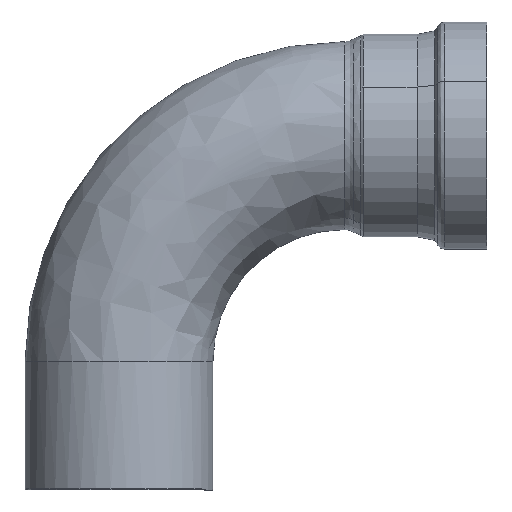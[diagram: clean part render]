
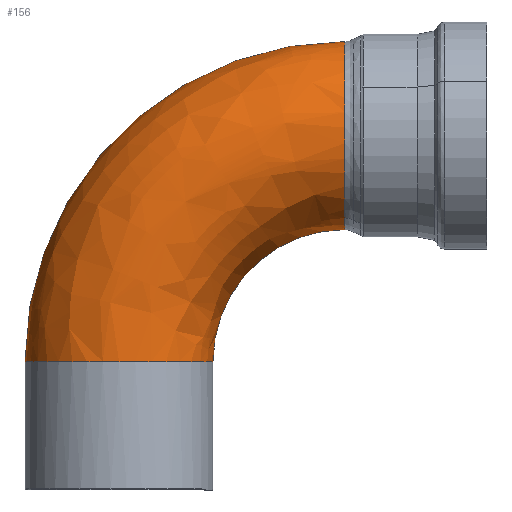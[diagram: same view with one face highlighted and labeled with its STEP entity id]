
A CAD part, front view. The second image highlights one B-rep face of the part: STEP entity #156.
In plain terms, the highlighted free-form (B-spline) face has degree [2, 2] with [5, 3] control points.
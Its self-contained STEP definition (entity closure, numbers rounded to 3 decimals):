
#156=ADVANCED_FACE('',(#418),#419,.T.);
#250=VERTEX_POINT('',#534);
#252=VERTEX_POINT('',#536);
#254=EDGE_CURVE('',#250,#252,#538,.T.);
#256=VERTEX_POINT('',#540);
#258=EDGE_CURVE('',#256,#250,#542,.T.);
#260=VERTEX_POINT('',#544);
#262=EDGE_CURVE('',#256,#260,#546,.T.);
#264=VERTEX_POINT('',#548);
#266=EDGE_CURVE('',#260,#264,#550,.T.);
#268=EDGE_CURVE('',#264,#252,#552,.T.);
#418=FACE_OUTER_BOUND('',#800,.T.);
#419=(B_SPLINE_SURFACE(2,2,((#802,#803,#804),(#805,#806,#807),(#808,#809,#810),(#811,#812,#813),(#814,#815,#816)),.UNSPECIFIED.,.F.,.F.,.F.)B_SPLINE_SURFACE_WITH_KNOTS((3,2,3),(3,3),(0.0,0.5,1.0),(0.0,1.0),.UNSPECIFIED.)RATIONAL_B_SPLINE_SURFACE(((1.0,0.707,1.0),(0.707,0.5,0.707),(1.0,0.707,1.0),(0.707,0.5,0.707),(1.0,0.707,1.0)))BOUNDED_SURFACE()REPRESENTATION_ITEM('')GEOMETRIC_REPRESENTATION_ITEM()SURFACE());
#534=CARTESIAN_POINT('',(-38.05,0.,-91.5));
#536=CARTESIAN_POINT('',(91.5,0.,38.05));
#538=CIRCLE('',#1294,129.55);
#540=CARTESIAN_POINT('',(38.05,0.,-91.5));
#542=CIRCLE('',#1299,38.05);
#544=CARTESIAN_POINT('',(91.5,0.,-38.05));
#546=CIRCLE('',#1304,53.45);
#548=CARTESIAN_POINT('',(91.5,-18.245,-33.397));
#550=CIRCLE('',#1309,38.029);
#552=CIRCLE('',#1312,38.053);
#800=EDGE_LOOP('',(#1545,#1546,#1547,#1548,#1549));
#802=CARTESIAN_POINT('',(-38.05,0.,-91.5));
#803=CARTESIAN_POINT('',(-38.05,0.,38.05));
#804=CARTESIAN_POINT('',(91.5,0.,38.05));
#805=CARTESIAN_POINT('',(-38.05,-38.05,-91.5));
#806=CARTESIAN_POINT('',(-38.05,-38.05,38.05));
#807=CARTESIAN_POINT('',(91.5,-38.05,38.05));
#808=CARTESIAN_POINT('',(0.,-38.05,-91.5));
#809=CARTESIAN_POINT('',(0.,-38.05,0.));
#810=CARTESIAN_POINT('',(91.5,-38.05,0.));
#811=CARTESIAN_POINT('',(38.05,-38.05,-91.5));
#812=CARTESIAN_POINT('',(38.05,-38.05,-38.05));
#813=CARTESIAN_POINT('',(91.5,-38.05,-38.05));
#814=CARTESIAN_POINT('',(38.05,0.,-91.5));
#815=CARTESIAN_POINT('',(38.05,0.,-38.05));
#816=CARTESIAN_POINT('',(91.5,0.,-38.05));
#1294=AXIS2_PLACEMENT_3D('',#1691,#1692,#1693);
#1299=AXIS2_PLACEMENT_3D('',#1694,#1695,#1696);
#1304=AXIS2_PLACEMENT_3D('',#1697,#1698,#1699);
#1309=AXIS2_PLACEMENT_3D('',#1700,#1701,#1702);
#1312=AXIS2_PLACEMENT_3D('',#1703,#1704,#1705);
#1545=ORIENTED_EDGE('',*,*,#254,.F.);
#1546=ORIENTED_EDGE('',*,*,#258,.F.);
#1547=ORIENTED_EDGE('',*,*,#262,.T.);
#1548=ORIENTED_EDGE('',*,*,#266,.T.);
#1549=ORIENTED_EDGE('',*,*,#268,.T.);
#1691=CARTESIAN_POINT('',(91.5,0.,-91.5));
#1692=DIRECTION('',(0.,1.0,0.));
#1693=DIRECTION('',(-1.0,0.,0.));
#1694=CARTESIAN_POINT('',(0.,0.,-91.5));
#1695=DIRECTION('',(0.,0.,-1.0));
#1696=DIRECTION('',(1.0,0.,0.));
#1697=CARTESIAN_POINT('',(91.5,0.,-91.5));
#1698=DIRECTION('',(0.,1.0,0.));
#1699=DIRECTION('',(-1.0,0.,0.));
#1700=CARTESIAN_POINT('',(91.499,-0.018,-0.021));
#1701=DIRECTION('',(-1.,0.,0.));
#1702=DIRECTION('',(0.,0.,-1.));
#1703=CARTESIAN_POINT('',(91.5,-0.002,-0.003));
#1704=DIRECTION('',(-1.,0.,0.));
#1705=DIRECTION('',(0.,-0.479,-0.878));
